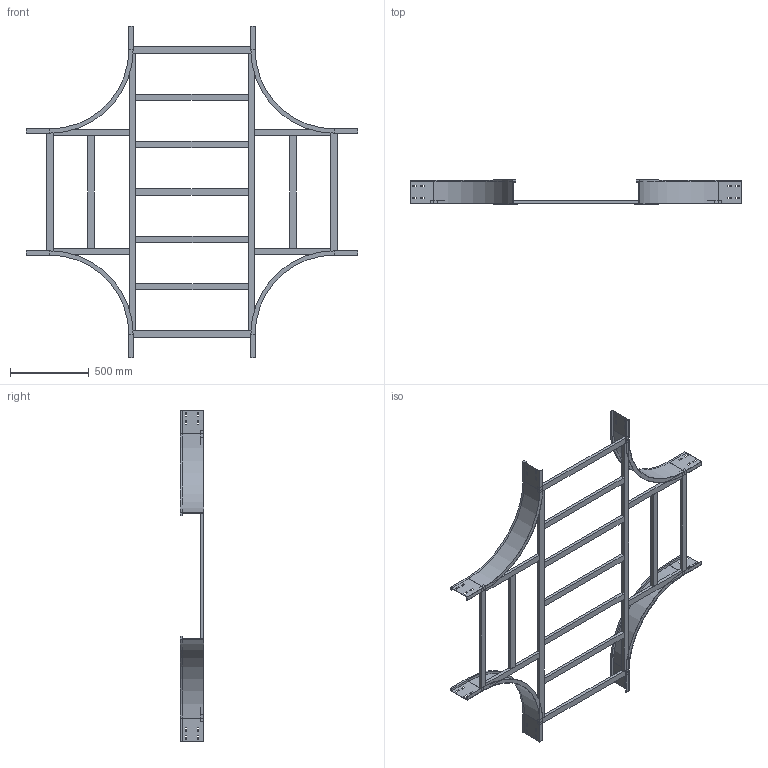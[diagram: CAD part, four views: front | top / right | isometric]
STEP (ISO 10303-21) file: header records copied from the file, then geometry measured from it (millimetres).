
FILE_DESCRIPTION (( 'STEP AP214' ), '1' );
FILE_NAME ('17J5F800.step', '2025-02-21T16:28:58', ( '' ), ( '' ), 'SwSTEP 2.0', 'SolidWorks 2023', '' );
FILE_SCHEMA (( 'AUTOMOTIVE_DESIGN' ));
Length unit declared in the file: millimetre
Products named in the file (7): TRAVERSINO_800; TRAVERSINO_COPPIA_800; TRAVERSINO_VERT_R500; TRAVERSINO_LONG._R500+800; LONGH.INTERNO 90°_H150_R500; 17J5F800; TRAVERSINO_INTERMEDIO_X_R500+800
Assembly tree (21 placements, depth 2):
  17J5F800
    LONGH.INTERNO 90°_H150_R500  x4
    TRAVERSINO_800  x4
    TRAVERSINO_LONG._R500+800  x2
    TRAVERSINO_INTERMEDIO_X_R500+800  x5
    TRAVERSINO_VERT_R500  x4
    TRAVERSINO_COPPIA_800  x2
Bounding box: 2100 x 150 x 2100 mm (x, y, z)
Volume: 13401597.2 mm3; surface area: 3357514.3 mm2
Topology: 21 solids, 21 shells, 334 faces, 812 edges, 520 vertices
Faces by surface type: plane 318, cylinder 16
Entity records: 2868 total; most frequent: CARTESIAN_POINT 460, DIRECTION 444, ORIENTED_EDGE 424, EDGE_CURVE 212, LINE 204, VECTOR 204, VERTEX_POINT 136, AXIS2_PLACEMENT_3D 120
